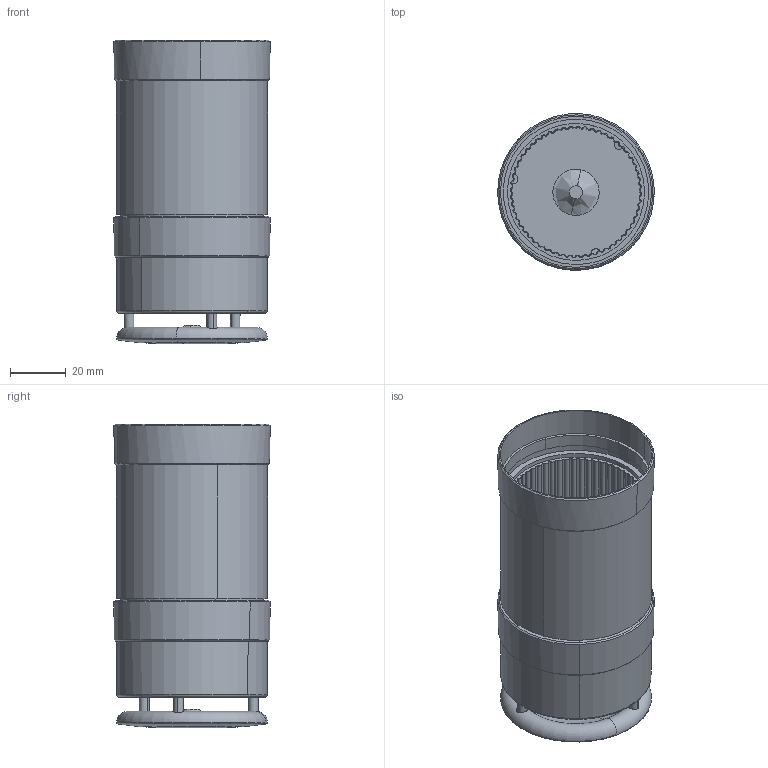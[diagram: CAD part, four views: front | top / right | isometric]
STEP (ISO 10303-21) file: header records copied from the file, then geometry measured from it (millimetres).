
FILE_DESCRIPTION (( 'STEP AP214' ), '1' );
FILE_NAME ('2825008xxxx - BR50-SM.STEP', '2010-05-11T12:29:34', ( ' ' ), ( ' ' ), 'SwSTEP 2.0', 'SolidWorks 2009', '' );
FILE_SCHEMA (( 'AUTOMOTIVE_DESIGN' ));
Length unit declared in the file: millimetre
Products named in the file (1): 2825008xxxx - BR50-SM
Bounding box: 55.95 x 55.95 x 108.5 mm (x, y, z)
Surface area: 37995.6 mm2 (no closed solid volume)
Topology: 0 solids, 5 shells, 213 faces, 629 edges, 427 vertices
Faces by surface type: cylinder 100, bspline 82, plane 18, cone 6, torus 6, sphere 1
Entity records: 9903 total; most frequent: CARTESIAN_POINT 2696, ORIENTED_EDGE 1069, DIRECTION 905, EDGE_CURVE 629, VERTEX_POINT 427, AXIS2_PLACEMENT_3D 347, EDGE_LOOP 229, CIRCLE 215
